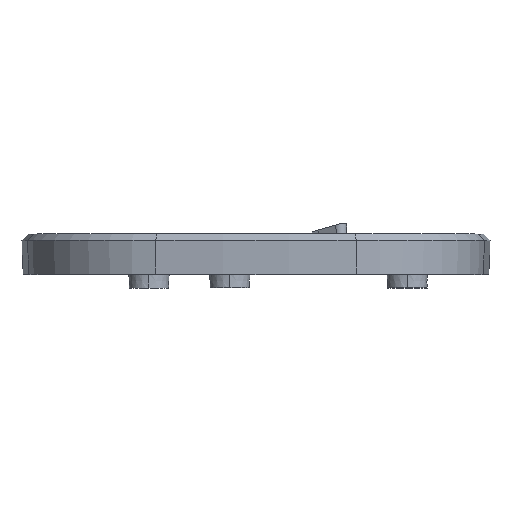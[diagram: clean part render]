
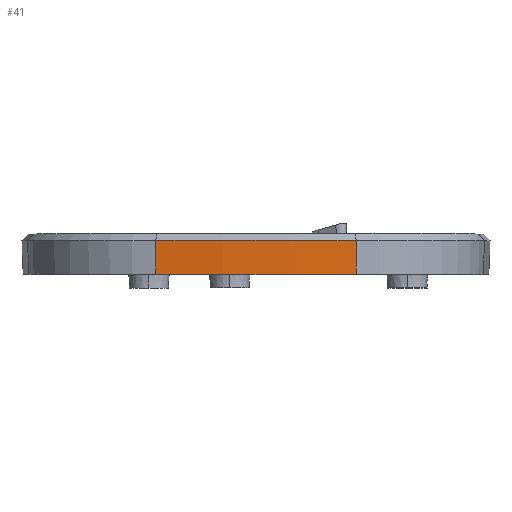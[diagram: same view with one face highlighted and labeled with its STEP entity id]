
A CAD part, top view. The second image highlights one B-rep face of the part: STEP entity #41.
In plain terms, the highlighted conical face has half-angle 2 degrees and reference radius 60 mm.
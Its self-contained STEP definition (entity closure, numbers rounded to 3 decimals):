
#41 = ADVANCED_FACE ( 'NONE', ( #6741 ), #165, .T. ) ;
#165 = CONICAL_SURFACE ( 'NONE', #1206, 60., 0.035 ) ;
#217 = CARTESIAN_POINT ( 'NONE',  ( 0., 0., -42.536 ) ) ;
#233 = LINE ( 'NONE', #1174, #3013 ) ;
#390 = ORIENTED_EDGE ( 'NONE', *, *, #7510, .F. ) ;
#432 = VERTEX_POINT ( 'NONE', #2246 ) ;
#491 = VERTEX_POINT ( 'NONE', #4410 ) ;
#517 = DIRECTION ( 'NONE',  ( 0.004, -0.999, -0.035 ) ) ;
#557 = ORIENTED_EDGE ( 'NONE', *, *, #3542, .T. ) ;
#623 = DIRECTION ( 'NONE',  ( 0., 0., -1. ) ) ;
#931 = EDGE_LOOP ( 'NONE', ( #390, #1935, #557, #3468 ) ) ;
#1174 = CARTESIAN_POINT ( 'NONE',  ( 7.451, 3., 17. ) ) ;
#1206 = AXIS2_PLACEMENT_3D ( 'NONE', #6131, #6626, #623 ) ;
#1283 = CARTESIAN_POINT ( 'NONE',  ( -7.449, 2.517, 16.983 ) ) ;
#1689 = DIRECTION ( 'NONE',  ( 0., 0., 1. ) ) ;
#1749 = CIRCLE ( 'NONE', #6925, 59.895 ) ;
#1849 = CARTESIAN_POINT ( 'NONE',  ( -7.451, 3., 17. ) ) ;
#1935 = ORIENTED_EDGE ( 'NONE', *, *, #6313, .T. ) ;
#1946 = VERTEX_POINT ( 'NONE', #2245 ) ;
#2245 = CARTESIAN_POINT ( 'NONE',  ( 7.449, 2.517, 16.983 ) ) ;
#2246 = CARTESIAN_POINT ( 'NONE',  ( -7.438, 0., 16.896 ) ) ;
#2454 = DIRECTION ( 'NONE',  ( 0., -1., 0. ) ) ;
#2691 = DIRECTION ( 'NONE',  ( -0.004, -0.999, -0.035 ) ) ;
#3013 = VECTOR ( 'NONE', #2691, 1000. ) ;
#3245 = DIRECTION ( 'NONE',  ( 0., 1., 0. ) ) ;
#3468 = ORIENTED_EDGE ( 'NONE', *, *, #3882, .T. ) ;
#3531 = VECTOR ( 'NONE', #517, 1000. ) ;
#3542 = EDGE_CURVE ( 'NONE', #5456, #432, #6801, .T. ) ;
#3882 = EDGE_CURVE ( 'NONE', #432, #491, #1749, .T. ) ;
#4410 = CARTESIAN_POINT ( 'NONE',  ( 7.438, 0., 16.896 ) ) ;
#4460 = DIRECTION ( 'NONE',  ( 0., 0., 1. ) ) ;
#5195 = CIRCLE ( 'NONE', #6751, 59.983 ) ;
#5456 = VERTEX_POINT ( 'NONE', #1283 ) ;
#6131 = CARTESIAN_POINT ( 'NONE',  ( 0., 3., -42.536 ) ) ;
#6313 = EDGE_CURVE ( 'NONE', #1946, #5456, #5195, .T. ) ;
#6626 = DIRECTION ( 'NONE',  ( 0., 1., 0. ) ) ;
#6670 = CARTESIAN_POINT ( 'NONE',  ( 0., 2.517, -42.536 ) ) ;
#6741 = FACE_OUTER_BOUND ( 'NONE', #931, .T. ) ;
#6751 = AXIS2_PLACEMENT_3D ( 'NONE', #6670, #2454, #1689 ) ;
#6801 = LINE ( 'NONE', #1849, #3531 ) ;
#6925 = AXIS2_PLACEMENT_3D ( 'NONE', #217, #3245, #4460 ) ;
#7510 = EDGE_CURVE ( 'NONE', #1946, #491, #233, .T. ) ;
